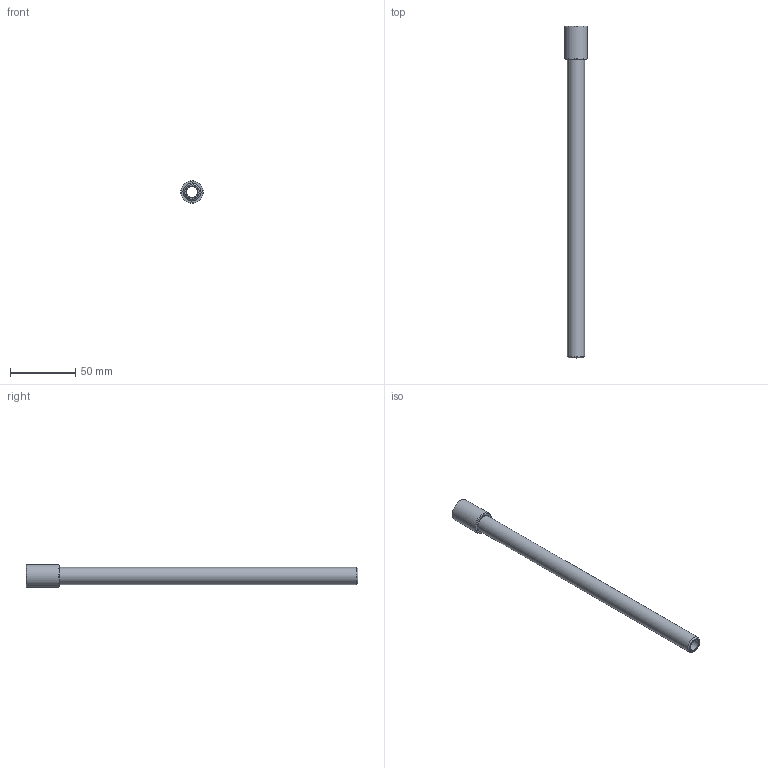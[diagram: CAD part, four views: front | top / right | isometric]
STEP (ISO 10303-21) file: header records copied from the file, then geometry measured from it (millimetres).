
FILE_DESCRIPTION(/* description */ (''),/* implementation_level */ '2;1');
FILE_NAME(/* name */ 'C:/Users/drich/Desktop/EP14X10 v1.step',/* time_stamp */ '2019-11-18T15:02:14-06:00',/* author */ (''),/* organization */ (''),/* preprocessor_version */ 'ST-DEVELOPER v18',/* originating_system */ 'Autodesk Translation Framework v8.12.0.6',/* authorisation */ '');
FILE_SCHEMA (('AUTOMOTIVE_DESIGN { 1 0 10303 214 3 1 1 }'));
Length unit declared in the file: inch
Products named in the file (2): EP14X10; EP14X4
Assembly tree (1 placements, depth 2):
  EP14X10
    EP14X4
Bounding box: 17.45 x 254 x 17.45 mm (x, y, z)
Volume: 20517.8 mm3; surface area: 18194.1 mm2
Topology: 1 solids, 1 shells, 23 faces, 55 edges, 37 vertices
Faces by surface type: plane 11, cone 7, cylinder 5
Full cylindrical faces by diameter (mm): 8.712 x1, 11.43 x1, 11.668 x1, 13.032 x1, 17.45 x1
Entity records: 740 total; most frequent: CARTESIAN_POINT 132, DIRECTION 124, ORIENTED_EDGE 110, EDGE_CURVE 55, AXIS2_PLACEMENT_3D 50, VERTEX_POINT 37, EDGE_LOOP 28, LINE 24
